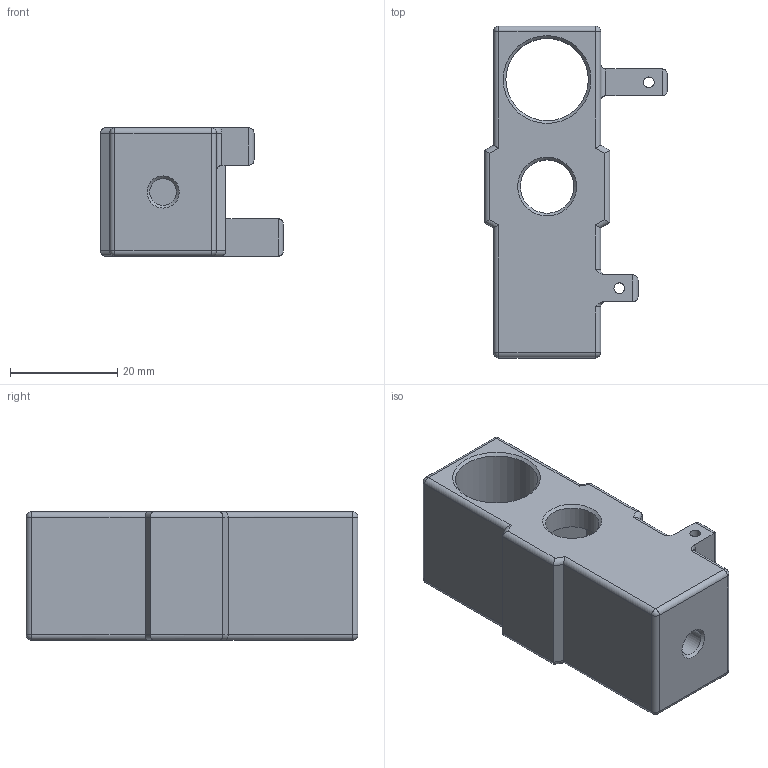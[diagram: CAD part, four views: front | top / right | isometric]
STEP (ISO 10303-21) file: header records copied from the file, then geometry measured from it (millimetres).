
FILE_DESCRIPTION(/* description */ (''),/* implementation_level */ '2;1');
FILE_NAME(/* name */ 'V:\Flow\Inventor\Kontinuierliche Spritzenpumpe\Stempel.stp',/* time_stamp */ '2019-12-20T10:20:00+01:00',/* author */ ('JN'),/* organization */ (''),/* preprocessor_version */ 'ST-DEVELOPER v17',/* originating_system */ 'Autodesk Inventor 2018',/* authorisation */ '');
FILE_SCHEMA (('AUTOMOTIVE_DESIGN { 1 0 10303 214 3 1 1 }'));
Length unit declared in the file: millimetre
Products named in the file (1): Stempel
Bounding box: 34.2 x 62 x 24 mm (x, y, z)
Volume: 21874.8 mm3; surface area: 9406.9 mm2
Topology: 1 solids, 1 shells, 98 faces, 224 edges, 131 vertices
Faces by surface type: cylinder 50, plane 31, sphere 8, cone 5, torus 4
Full cylindrical faces by diameter (mm): 2 x2, 5 x1, 10 x2, 15.4 x1
Entity records: 2782 total; most frequent: DIRECTION 505, CARTESIAN_POINT 474, ORIENTED_EDGE 448, EDGE_CURVE 224, AXIS2_PLACEMENT_3D 186, LINE 133, VECTOR 133, VERTEX_POINT 131
